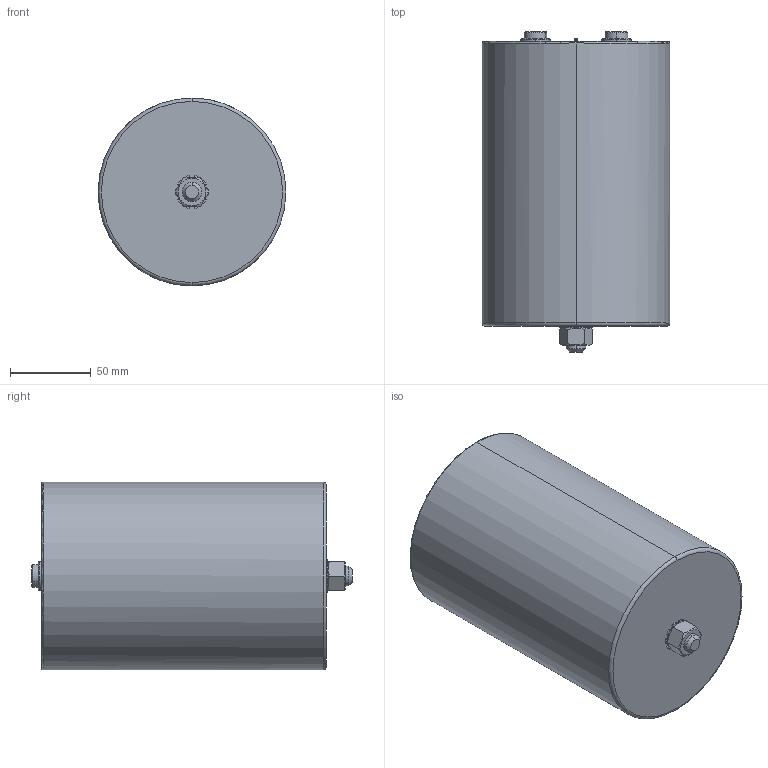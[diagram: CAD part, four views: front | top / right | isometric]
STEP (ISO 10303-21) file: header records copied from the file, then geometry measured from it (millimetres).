
FILE_DESCRIPTION (( 'STEP AP214' ), '1' );
FILE_NAME ('B25694M Series D116 Hc176 Ht182.STEP', '2025-07-24T05:43:27', ( '' ), ( '' ), 'SwSTEP 2.0', 'SolidWorks 2019', '' );
FILE_SCHEMA (( 'AUTOMOTIVE_DESIGN' ));
Length unit declared in the file: millimetre
Products named in the file (1): B25694M Series D116 Hc176 Ht182
Bounding box: 116 x 198 x 116 mm (x, y, z)
Volume: 1865164.4 mm3; surface area: 86689.2 mm2
Topology: 1 solids, 2 shells, 143 faces, 347 edges, 208 vertices
Faces by surface type: plane 60, cylinder 51, cone 22, torus 6, sphere 4
Entity records: 4281 total; most frequent: CARTESIAN_POINT 823, DIRECTION 791, ORIENTED_EDGE 678, EDGE_CURVE 339, AXIS2_PLACEMENT_3D 320, VERTEX_POINT 208, CIRCLE 176, EDGE_LOOP 153
